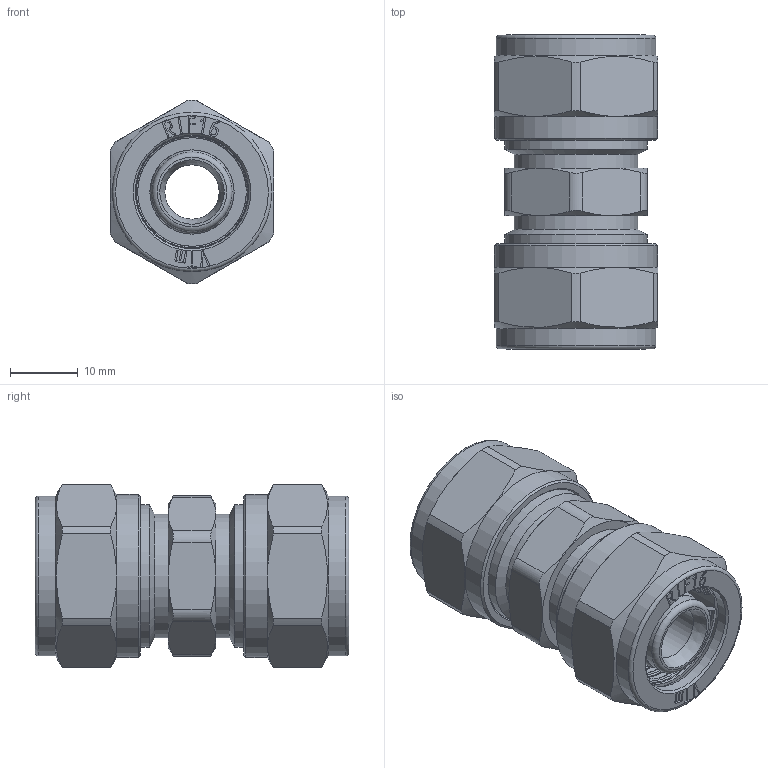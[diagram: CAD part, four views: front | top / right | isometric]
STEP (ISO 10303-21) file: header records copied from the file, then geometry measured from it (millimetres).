
FILE_DESCRIPTION(('STEP AP203'), '1');
FILE_NAME('VTm.303.N.001616', '', ('UNSPECIFIED'), ('UNSPECIFIED'), 'C3D Converter', 'C3D Toolkit', '');
FILE_SCHEMA(('CONFIG_CONTROL_DESIGN'));
Length unit declared in the file: millimetre
Products named in the file (1): ВР.302634.068.000 СБ
Bounding box: 24 x 46.21 x 27 mm (x, y, z)
Volume: 13955.7 mm3; surface area: 11462.2 mm2
Topology: 3 solids, 3 shells, 569 faces, 1514 edges, 993 vertices
Faces by surface type: extrusion 222, plane 184, cylinder 63, torus 54, cone 46
Full cylindrical faces by diameter (mm): 8 x1, 11.8 x8, 12.4 x2, 16.2 x2, 16.7 x2, 18.2 x2, 18.632 x2, 20.955 x2, 23.5 x2, 24 x2
Entity records: 20848 total; most frequent: CARTESIAN_POINT 8010, ORIENTED_EDGE 2894, DIRECTION 1932, EDGE_CURVE 1447, VERTEX_POINT 993, VECTOR 830, B_SPLINE_CURVE_WITH_KNOTS 818, EDGE_LOOP 680
